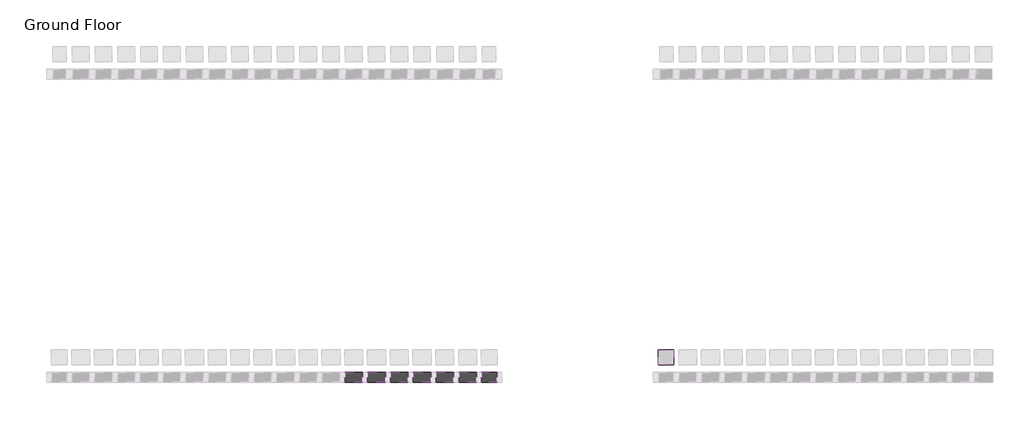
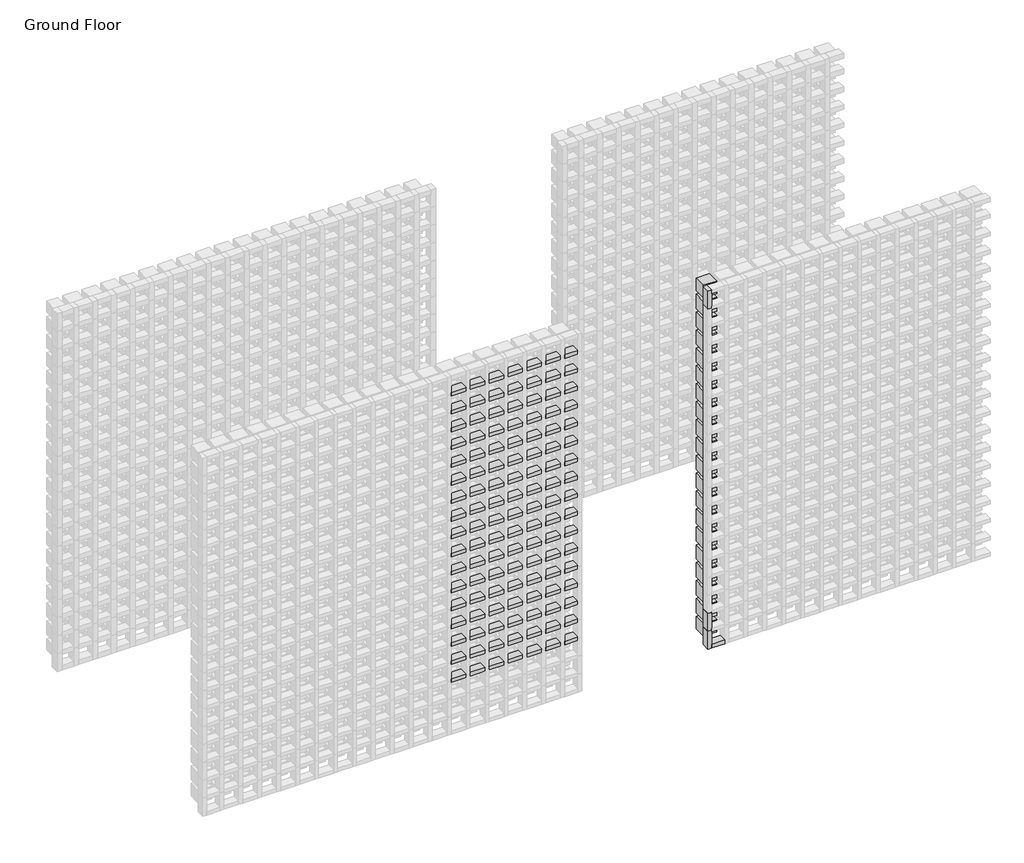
# One storey, part 64 of 350: 123 members, 20 plates.
"""IFC4 building model written with IfcOpenShell, lengths in millimetres."""

from ifc_helpers import new_model, si_unit, origin, place, context, project, spatial, transform, mapped, element, save
from components import rectangular_mullion_e9e2e2fa, rectangular_mullion_f28dea33, rectangular_mullion_27b03f3e, rectangular_mullion_ed01f2b6, empty_system_panel_empty_2f71b3a5, empty_system_panel_empty_7a4fbe29

model = new_model("IFC4")

# Units and contexts
model_context = context("Model", 3, world=origin())
ifc_project = project(units=[si_unit("LENGTHUNIT", "METRE", prefix="MILLI")], contexts=[model_context])

# Site, building, storey
site = spatial("IfcSite", under=ifc_project)
building = spatial("IfcBuilding", under=site)
storey = spatial("IfcBuildingStorey", under=building, Name="Ground Floor", Elevation=0.0)

# Members
placement = place(None, origin())
rectangular_mullion_shape = rectangular_mullion_e9e2e2fa(model_context)
element("IfcMember", 1, ObjectType="Rectangular Mullion : Batten_Timber_Modinex_Austratus_Grid_Fascia_30x65_Blackbutt", at=placement, inside=storey, context=model_context, shape_type="MappedRepresentation", body=[
    mapped(rectangular_mullion_shape, transform((8886.4361639, 38968.2978302, 450.0), x_axis=(0.0, 0.0, 1.0), y_axis=(0.0, -1.0, 0.0), z_axis=(1.0, 0.0, 0.0))),
])
element("IfcMember", 2, ObjectType="Rectangular Mullion : Batten_Timber_Modinex_Austratus_Grid_Fascia_30x65_Blackbutt", at=placement, inside=storey, context=model_context, shape_type="MappedRepresentation", body=[
    mapped(rectangular_mullion_shape, transform((8886.4361639, 38968.2978302, 600.0), x_axis=(0.0, 0.0, 1.0), y_axis=(0.0, -1.0, 0.0), z_axis=(1.0, 0.0, 0.0))),
])
element("IfcMember", 3, ObjectType="Rectangular Mullion : Batten_Timber_Modinex_Austratus_Grid_Fascia_30x65_Blackbutt", at=placement, inside=storey, context=model_context, shape_type="MappedRepresentation", body=[
    mapped(rectangular_mullion_shape, transform((8886.4361639, 38968.2978302, 750.0), x_axis=(0.0, 0.0, 1.0), y_axis=(0.0, -1.0, 0.0), z_axis=(1.0, 0.0, 0.0))),
])
element("IfcMember", 4, ObjectType="Rectangular Mullion : Batten_Timber_Modinex_Austratus_Grid_Fascia_30x65_Blackbutt", at=placement, inside=storey, context=model_context, shape_type="MappedRepresentation", body=[
    mapped(rectangular_mullion_shape, transform((8886.4361639, 38968.2978302, 900.0), x_axis=(0.0, 0.0, 1.0), y_axis=(0.0, -1.0, 0.0), z_axis=(1.0, 0.0, 0.0))),
])
element("IfcMember", 5, ObjectType="Rectangular Mullion : Batten_Timber_Modinex_Austratus_Grid_Fascia_30x65_Blackbutt", at=placement, inside=storey, context=model_context, shape_type="MappedRepresentation", body=[
    mapped(rectangular_mullion_shape, transform((8886.4361639, 38968.2978302, 1050.0), x_axis=(0.0, 0.0, 1.0), y_axis=(0.0, -1.0, 0.0), z_axis=(1.0, 0.0, 0.0))),
])
element("IfcMember", 6, ObjectType="Rectangular Mullion : Batten_Timber_Modinex_Austratus_Grid_Fascia_30x65_Blackbutt", at=placement, inside=storey, context=model_context, shape_type="MappedRepresentation", body=[
    mapped(rectangular_mullion_shape, transform((8886.4361639, 38968.2978302, 1200.0), x_axis=(0.0, 0.0, 1.0), y_axis=(0.0, -1.0, 0.0), z_axis=(1.0, 0.0, 0.0))),
])
element("IfcMember", 7, ObjectType="Rectangular Mullion : Batten_Timber_Modinex_Austratus_Grid_Fascia_30x65_Blackbutt", at=placement, inside=storey, context=model_context, shape_type="MappedRepresentation", body=[
    mapped(rectangular_mullion_shape, transform((8886.4361639, 38968.2978302, 1350.0), x_axis=(0.0, 0.0, 1.0), y_axis=(0.0, -1.0, 0.0), z_axis=(1.0, 0.0, 0.0))),
])
element("IfcMember", 8, ObjectType="Rectangular Mullion : Batten_Timber_Modinex_Austratus_Grid_Fascia_30x65_Blackbutt", at=placement, inside=storey, context=model_context, shape_type="MappedRepresentation", body=[
    mapped(rectangular_mullion_shape, transform((8886.4361639, 38968.2978302, 1500.0), x_axis=(0.0, 0.0, 1.0), y_axis=(0.0, -1.0, 0.0), z_axis=(1.0, 0.0, 0.0))),
])
element("IfcMember", 9, ObjectType="Rectangular Mullion : Batten_Timber_Modinex_Austratus_Grid_Fascia_30x65_Blackbutt", at=placement, inside=storey, context=model_context, shape_type="MappedRepresentation", body=[
    mapped(rectangular_mullion_shape, transform((8886.4361639, 38968.2978302, 1650.0), x_axis=(0.0, 0.0, 1.0), y_axis=(0.0, -1.0, 0.0), z_axis=(1.0, 0.0, 0.0))),
])
element("IfcMember", 10, ObjectType="Rectangular Mullion : Batten_Timber_Modinex_Austratus_Grid_Fascia_30x65_Blackbutt", at=placement, inside=storey, context=model_context, shape_type="MappedRepresentation", body=[
    mapped(rectangular_mullion_shape, transform((8886.4361639, 38968.2978302, 1800.0), x_axis=(0.0, 0.0, 1.0), y_axis=(0.0, -1.0, 0.0), z_axis=(1.0, 0.0, 0.0))),
])
element("IfcMember", 11, ObjectType="Rectangular Mullion : Batten_Timber_Modinex_Austratus_Grid_Fascia_30x65_Blackbutt", at=placement, inside=storey, context=model_context, shape_type="MappedRepresentation", body=[
    mapped(rectangular_mullion_shape, transform((8886.4361639, 38968.2978302, 1950.0), x_axis=(0.0, 0.0, 1.0), y_axis=(0.0, -1.0, 0.0), z_axis=(1.0, 0.0, 0.0))),
])
element("IfcMember", 12, ObjectType="Rectangular Mullion : Batten_Timber_Modinex_Austratus_Grid_Fascia_30x65_Blackbutt", at=placement, inside=storey, context=model_context, shape_type="MappedRepresentation", body=[
    mapped(rectangular_mullion_shape, transform((8886.4361639, 38968.2978302, 2100.0), x_axis=(0.0, 0.0, 1.0), y_axis=(0.0, -1.0, 0.0), z_axis=(1.0, 0.0, 0.0))),
])
element("IfcMember", 13, ObjectType="Rectangular Mullion : Batten_Timber_Modinex_Austratus_Grid_Fascia_30x65_Blackbutt", at=placement, inside=storey, context=model_context, shape_type="MappedRepresentation", body=[
    mapped(rectangular_mullion_shape, transform((8886.4361639, 38968.2978302, 2250.0), x_axis=(0.0, 0.0, 1.0), y_axis=(0.0, -1.0, 0.0), z_axis=(1.0, 0.0, 0.0))),
])
element("IfcMember", 14, ObjectType="Rectangular Mullion : Batten_Timber_Modinex_Austratus_Grid_Fascia_30x65_Blackbutt", at=placement, inside=storey, context=model_context, shape_type="MappedRepresentation", body=[
    mapped(rectangular_mullion_shape, transform((8886.4361639, 38968.2978302, 2400.0), x_axis=(0.0, 0.0, 1.0), y_axis=(0.0, -1.0, 0.0), z_axis=(1.0, 0.0, 0.0))),
])
element("IfcMember", 15, ObjectType="Rectangular Mullion : Batten_Timber_Modinex_Austratus_Grid_Fascia_30x65_Blackbutt", at=placement, inside=storey, context=model_context, shape_type="MappedRepresentation", body=[
    mapped(rectangular_mullion_shape, transform((8886.4361639, 38968.2978302, 2550.0), x_axis=(0.0, 0.0, 1.0), y_axis=(0.0, -1.0, 0.0), z_axis=(1.0, 0.0, 0.0))),
])
element("IfcMember", 16, ObjectType="Rectangular Mullion : Batten_Timber_Modinex_Austratus_Grid_Fascia_30x65_Blackbutt", at=placement, inside=storey, context=model_context, shape_type="MappedRepresentation", body=[
    mapped(rectangular_mullion_shape, transform((8886.4361639, 38968.2978302, 2700.0), x_axis=(0.0, 0.0, 1.0), y_axis=(0.0, -1.0, 0.0), z_axis=(1.0, 0.0, 0.0))),
])
element("IfcMember", 17, ObjectType="Rectangular Mullion : Batten_Timber_Modinex_Austratus_Grid_Fascia_30x65_Blackbutt", at=placement, inside=storey, context=model_context, shape_type="MappedRepresentation", body=[
    mapped(rectangular_mullion_shape, transform((8886.4361639, 38968.2978302, 2850.0), x_axis=(0.0, 0.0, 1.0), y_axis=(0.0, -1.0, 0.0), z_axis=(1.0, 0.0, 0.0))),
])
rectangular_mullion_2_shape = rectangular_mullion_f28dea33(model_context)
element("IfcMember", 18, ObjectType="Rectangular Mullion : Batten_Timber_Modinex_Austratus_Grid_Fascia_30x65_Blackbutt", at=placement, inside=storey, context=model_context, shape_type="MappedRepresentation", body=[
    mapped(rectangular_mullion_2_shape, transform((8001.4361642, 38968.2978302, 450.0), x_axis=(0.0, 0.0, 1.0), y_axis=(0.0, -1.0, 0.0), z_axis=(1.0, 0.0, 0.0))),
])
element("IfcMember", 19, ObjectType="Rectangular Mullion : Batten_Timber_Modinex_Austratus_Grid_Fascia_30x65_Blackbutt", at=placement, inside=storey, context=model_context, shape_type="MappedRepresentation", body=[
    mapped(rectangular_mullion_2_shape, transform((8151.4361642, 38968.2978302, 450.0), x_axis=(0.0, 0.0, 1.0), y_axis=(0.0, -1.0, 0.0), z_axis=(1.0, 0.0, 0.0))),
])
element("IfcMember", 20, ObjectType="Rectangular Mullion : Batten_Timber_Modinex_Austratus_Grid_Fascia_30x65_Blackbutt", at=placement, inside=storey, context=model_context, shape_type="MappedRepresentation", body=[
    mapped(rectangular_mullion_2_shape, transform((8301.4361642, 38968.2978302, 450.0), x_axis=(0.0, 0.0, 1.0), y_axis=(0.0, -1.0, 0.0), z_axis=(1.0, 0.0, 0.0))),
])
element("IfcMember", 21, ObjectType="Rectangular Mullion : Batten_Timber_Modinex_Austratus_Grid_Fascia_30x65_Blackbutt", at=placement, inside=storey, context=model_context, shape_type="MappedRepresentation", body=[
    mapped(rectangular_mullion_2_shape, transform((8451.4361642, 38968.2978302, 450.0), x_axis=(0.0, 0.0, 1.0), y_axis=(0.0, -1.0, 0.0), z_axis=(1.0, 0.0, 0.0))),
])
element("IfcMember", 22, ObjectType="Rectangular Mullion : Batten_Timber_Modinex_Austratus_Grid_Fascia_30x65_Blackbutt", at=placement, inside=storey, context=model_context, shape_type="MappedRepresentation", body=[
    mapped(rectangular_mullion_2_shape, transform((8601.4361642, 38968.2978302, 450.0), x_axis=(0.0, 0.0, 1.0), y_axis=(0.0, -1.0, 0.0), z_axis=(1.0, 0.0, 0.0))),
])
element("IfcMember", 23, ObjectType="Rectangular Mullion : Batten_Timber_Modinex_Austratus_Grid_Fascia_30x65_Blackbutt", at=placement, inside=storey, context=model_context, shape_type="MappedRepresentation", body=[
    mapped(rectangular_mullion_2_shape, transform((8751.4361642, 38968.2978302, 450.0), x_axis=(0.0, 0.0, 1.0), y_axis=(0.0, -1.0, 0.0), z_axis=(1.0, 0.0, 0.0))),
])
element("IfcMember", 24, ObjectType="Rectangular Mullion : Batten_Timber_Modinex_Austratus_Grid_Fascia_30x65_Blackbutt", at=placement, inside=storey, context=model_context, shape_type="MappedRepresentation", body=[
    mapped(rectangular_mullion_2_shape, transform((8001.4361642, 38968.2978302, 600.0), x_axis=(0.0, 0.0, 1.0), y_axis=(0.0, -1.0, 0.0), z_axis=(1.0, 0.0, 0.0))),
])
element("IfcMember", 25, ObjectType="Rectangular Mullion : Batten_Timber_Modinex_Austratus_Grid_Fascia_30x65_Blackbutt", at=placement, inside=storey, context=model_context, shape_type="MappedRepresentation", body=[
    mapped(rectangular_mullion_2_shape, transform((8151.4361642, 38968.2978302, 600.0), x_axis=(0.0, 0.0, 1.0), y_axis=(0.0, -1.0, 0.0), z_axis=(1.0, 0.0, 0.0))),
])
element("IfcMember", 26, ObjectType="Rectangular Mullion : Batten_Timber_Modinex_Austratus_Grid_Fascia_30x65_Blackbutt", at=placement, inside=storey, context=model_context, shape_type="MappedRepresentation", body=[
    mapped(rectangular_mullion_2_shape, transform((8301.4361642, 38968.2978302, 600.0), x_axis=(0.0, 0.0, 1.0), y_axis=(0.0, -1.0, 0.0), z_axis=(1.0, 0.0, 0.0))),
])
element("IfcMember", 27, ObjectType="Rectangular Mullion : Batten_Timber_Modinex_Austratus_Grid_Fascia_30x65_Blackbutt", at=placement, inside=storey, context=model_context, shape_type="MappedRepresentation", body=[
    mapped(rectangular_mullion_2_shape, transform((8451.4361642, 38968.2978302, 600.0), x_axis=(0.0, 0.0, 1.0), y_axis=(0.0, -1.0, 0.0), z_axis=(1.0, 0.0, 0.0))),
])
element("IfcMember", 28, ObjectType="Rectangular Mullion : Batten_Timber_Modinex_Austratus_Grid_Fascia_30x65_Blackbutt", at=placement, inside=storey, context=model_context, shape_type="MappedRepresentation", body=[
    mapped(rectangular_mullion_2_shape, transform((8601.4361642, 38968.2978302, 600.0), x_axis=(0.0, 0.0, 1.0), y_axis=(0.0, -1.0, 0.0), z_axis=(1.0, 0.0, 0.0))),
])
element("IfcMember", 29, ObjectType="Rectangular Mullion : Batten_Timber_Modinex_Austratus_Grid_Fascia_30x65_Blackbutt", at=placement, inside=storey, context=model_context, shape_type="MappedRepresentation", body=[
    mapped(rectangular_mullion_2_shape, transform((8751.4361642, 38968.2978302, 600.0), x_axis=(0.0, 0.0, 1.0), y_axis=(0.0, -1.0, 0.0), z_axis=(1.0, 0.0, 0.0))),
])
element("IfcMember", 30, ObjectType="Rectangular Mullion : Batten_Timber_Modinex_Austratus_Grid_Fascia_30x65_Blackbutt", at=placement, inside=storey, context=model_context, shape_type="MappedRepresentation", body=[
    mapped(rectangular_mullion_2_shape, transform((8001.4361642, 38968.2978302, 750.0), x_axis=(0.0, 0.0, 1.0), y_axis=(0.0, -1.0, 0.0), z_axis=(1.0, 0.0, 0.0))),
])
element("IfcMember", 31, ObjectType="Rectangular Mullion : Batten_Timber_Modinex_Austratus_Grid_Fascia_30x65_Blackbutt", at=placement, inside=storey, context=model_context, shape_type="MappedRepresentation", body=[
    mapped(rectangular_mullion_2_shape, transform((8151.4361642, 38968.2978302, 750.0), x_axis=(0.0, 0.0, 1.0), y_axis=(0.0, -1.0, 0.0), z_axis=(1.0, 0.0, 0.0))),
])
element("IfcMember", 32, ObjectType="Rectangular Mullion : Batten_Timber_Modinex_Austratus_Grid_Fascia_30x65_Blackbutt", at=placement, inside=storey, context=model_context, shape_type="MappedRepresentation", body=[
    mapped(rectangular_mullion_2_shape, transform((8301.4361642, 38968.2978302, 750.0), x_axis=(0.0, 0.0, 1.0), y_axis=(0.0, -1.0, 0.0), z_axis=(1.0, 0.0, 0.0))),
])
element("IfcMember", 33, ObjectType="Rectangular Mullion : Batten_Timber_Modinex_Austratus_Grid_Fascia_30x65_Blackbutt", at=placement, inside=storey, context=model_context, shape_type="MappedRepresentation", body=[
    mapped(rectangular_mullion_2_shape, transform((8451.4361642, 38968.2978302, 750.0), x_axis=(0.0, 0.0, 1.0), y_axis=(0.0, -1.0, 0.0), z_axis=(1.0, 0.0, 0.0))),
])
element("IfcMember", 34, ObjectType="Rectangular Mullion : Batten_Timber_Modinex_Austratus_Grid_Fascia_30x65_Blackbutt", at=placement, inside=storey, context=model_context, shape_type="MappedRepresentation", body=[
    mapped(rectangular_mullion_2_shape, transform((8601.4361642, 38968.2978302, 750.0), x_axis=(0.0, 0.0, 1.0), y_axis=(0.0, -1.0, 0.0), z_axis=(1.0, 0.0, 0.0))),
])
element("IfcMember", 35, ObjectType="Rectangular Mullion : Batten_Timber_Modinex_Austratus_Grid_Fascia_30x65_Blackbutt", at=placement, inside=storey, context=model_context, shape_type="MappedRepresentation", body=[
    mapped(rectangular_mullion_2_shape, transform((8751.4361642, 38968.2978302, 750.0), x_axis=(0.0, 0.0, 1.0), y_axis=(0.0, -1.0, 0.0), z_axis=(1.0, 0.0, 0.0))),
])
element("IfcMember", 36, ObjectType="Rectangular Mullion : Batten_Timber_Modinex_Austratus_Grid_Fascia_30x65_Blackbutt", at=placement, inside=storey, context=model_context, shape_type="MappedRepresentation", body=[
    mapped(rectangular_mullion_2_shape, transform((8001.4361642, 38968.2978302, 900.0), x_axis=(0.0, 0.0, 1.0), y_axis=(0.0, -1.0, 0.0), z_axis=(1.0, 0.0, 0.0))),
])
element("IfcMember", 37, ObjectType="Rectangular Mullion : Batten_Timber_Modinex_Austratus_Grid_Fascia_30x65_Blackbutt", at=placement, inside=storey, context=model_context, shape_type="MappedRepresentation", body=[
    mapped(rectangular_mullion_2_shape, transform((8151.4361642, 38968.2978302, 900.0), x_axis=(0.0, 0.0, 1.0), y_axis=(0.0, -1.0, 0.0), z_axis=(1.0, 0.0, 0.0))),
])
element("IfcMember", 38, ObjectType="Rectangular Mullion : Batten_Timber_Modinex_Austratus_Grid_Fascia_30x65_Blackbutt", at=placement, inside=storey, context=model_context, shape_type="MappedRepresentation", body=[
    mapped(rectangular_mullion_2_shape, transform((8301.4361642, 38968.2978302, 900.0), x_axis=(0.0, 0.0, 1.0), y_axis=(0.0, -1.0, 0.0), z_axis=(1.0, 0.0, 0.0))),
])
element("IfcMember", 39, ObjectType="Rectangular Mullion : Batten_Timber_Modinex_Austratus_Grid_Fascia_30x65_Blackbutt", at=placement, inside=storey, context=model_context, shape_type="MappedRepresentation", body=[
    mapped(rectangular_mullion_2_shape, transform((8451.4361642, 38968.2978302, 900.0), x_axis=(0.0, 0.0, 1.0), y_axis=(0.0, -1.0, 0.0), z_axis=(1.0, 0.0, 0.0))),
])
element("IfcMember", 40, ObjectType="Rectangular Mullion : Batten_Timber_Modinex_Austratus_Grid_Fascia_30x65_Blackbutt", at=placement, inside=storey, context=model_context, shape_type="MappedRepresentation", body=[
    mapped(rectangular_mullion_2_shape, transform((8601.4361642, 38968.2978302, 900.0), x_axis=(0.0, 0.0, 1.0), y_axis=(0.0, -1.0, 0.0), z_axis=(1.0, 0.0, 0.0))),
])
element("IfcMember", 41, ObjectType="Rectangular Mullion : Batten_Timber_Modinex_Austratus_Grid_Fascia_30x65_Blackbutt", at=placement, inside=storey, context=model_context, shape_type="MappedRepresentation", body=[
    mapped(rectangular_mullion_2_shape, transform((8751.4361642, 38968.2978302, 900.0), x_axis=(0.0, 0.0, 1.0), y_axis=(0.0, -1.0, 0.0), z_axis=(1.0, 0.0, 0.0))),
])
element("IfcMember", 42, ObjectType="Rectangular Mullion : Batten_Timber_Modinex_Austratus_Grid_Fascia_30x65_Blackbutt", at=placement, inside=storey, context=model_context, shape_type="MappedRepresentation", body=[
    mapped(rectangular_mullion_2_shape, transform((8001.4361642, 38968.2978302, 1050.0), x_axis=(0.0, 0.0, 1.0), y_axis=(0.0, -1.0, 0.0), z_axis=(1.0, 0.0, 0.0))),
])
element("IfcMember", 43, ObjectType="Rectangular Mullion : Batten_Timber_Modinex_Austratus_Grid_Fascia_30x65_Blackbutt", at=placement, inside=storey, context=model_context, shape_type="MappedRepresentation", body=[
    mapped(rectangular_mullion_2_shape, transform((8151.4361642, 38968.2978302, 1050.0), x_axis=(0.0, 0.0, 1.0), y_axis=(0.0, -1.0, 0.0), z_axis=(1.0, 0.0, 0.0))),
])
element("IfcMember", 44, ObjectType="Rectangular Mullion : Batten_Timber_Modinex_Austratus_Grid_Fascia_30x65_Blackbutt", at=placement, inside=storey, context=model_context, shape_type="MappedRepresentation", body=[
    mapped(rectangular_mullion_2_shape, transform((8301.4361642, 38968.2978302, 1050.0), x_axis=(0.0, 0.0, 1.0), y_axis=(0.0, -1.0, 0.0), z_axis=(1.0, 0.0, 0.0))),
])
element("IfcMember", 45, ObjectType="Rectangular Mullion : Batten_Timber_Modinex_Austratus_Grid_Fascia_30x65_Blackbutt", at=placement, inside=storey, context=model_context, shape_type="MappedRepresentation", body=[
    mapped(rectangular_mullion_2_shape, transform((8451.4361642, 38968.2978302, 1050.0), x_axis=(0.0, 0.0, 1.0), y_axis=(0.0, -1.0, 0.0), z_axis=(1.0, 0.0, 0.0))),
])
element("IfcMember", 46, ObjectType="Rectangular Mullion : Batten_Timber_Modinex_Austratus_Grid_Fascia_30x65_Blackbutt", at=placement, inside=storey, context=model_context, shape_type="MappedRepresentation", body=[
    mapped(rectangular_mullion_2_shape, transform((8601.4361642, 38968.2978302, 1050.0), x_axis=(0.0, 0.0, 1.0), y_axis=(0.0, -1.0, 0.0), z_axis=(1.0, 0.0, 0.0))),
])
element("IfcMember", 47, ObjectType="Rectangular Mullion : Batten_Timber_Modinex_Austratus_Grid_Fascia_30x65_Blackbutt", at=placement, inside=storey, context=model_context, shape_type="MappedRepresentation", body=[
    mapped(rectangular_mullion_2_shape, transform((8751.4361642, 38968.2978302, 1050.0), x_axis=(0.0, 0.0, 1.0), y_axis=(0.0, -1.0, 0.0), z_axis=(1.0, 0.0, 0.0))),
])
element("IfcMember", 48, ObjectType="Rectangular Mullion : Batten_Timber_Modinex_Austratus_Grid_Fascia_30x65_Blackbutt", at=placement, inside=storey, context=model_context, shape_type="MappedRepresentation", body=[
    mapped(rectangular_mullion_2_shape, transform((8001.4361642, 38968.2978302, 1200.0), x_axis=(0.0, 0.0, 1.0), y_axis=(0.0, -1.0, 0.0), z_axis=(1.0, 0.0, 0.0))),
])
element("IfcMember", 49, ObjectType="Rectangular Mullion : Batten_Timber_Modinex_Austratus_Grid_Fascia_30x65_Blackbutt", at=placement, inside=storey, context=model_context, shape_type="MappedRepresentation", body=[
    mapped(rectangular_mullion_2_shape, transform((8151.4361642, 38968.2978302, 1200.0), x_axis=(0.0, 0.0, 1.0), y_axis=(0.0, -1.0, 0.0), z_axis=(1.0, 0.0, 0.0))),
])
element("IfcMember", 50, ObjectType="Rectangular Mullion : Batten_Timber_Modinex_Austratus_Grid_Fascia_30x65_Blackbutt", at=placement, inside=storey, context=model_context, shape_type="MappedRepresentation", body=[
    mapped(rectangular_mullion_2_shape, transform((8301.4361642, 38968.2978302, 1200.0), x_axis=(0.0, 0.0, 1.0), y_axis=(0.0, -1.0, 0.0), z_axis=(1.0, 0.0, 0.0))),
])
element("IfcMember", 51, ObjectType="Rectangular Mullion : Batten_Timber_Modinex_Austratus_Grid_Fascia_30x65_Blackbutt", at=placement, inside=storey, context=model_context, shape_type="MappedRepresentation", body=[
    mapped(rectangular_mullion_2_shape, transform((8451.4361642, 38968.2978302, 1200.0), x_axis=(0.0, 0.0, 1.0), y_axis=(0.0, -1.0, 0.0), z_axis=(1.0, 0.0, 0.0))),
])
element("IfcMember", 52, ObjectType="Rectangular Mullion : Batten_Timber_Modinex_Austratus_Grid_Fascia_30x65_Blackbutt", at=placement, inside=storey, context=model_context, shape_type="MappedRepresentation", body=[
    mapped(rectangular_mullion_2_shape, transform((8601.4361642, 38968.2978302, 1200.0), x_axis=(0.0, 0.0, 1.0), y_axis=(0.0, -1.0, 0.0), z_axis=(1.0, 0.0, 0.0))),
])
element("IfcMember", 53, ObjectType="Rectangular Mullion : Batten_Timber_Modinex_Austratus_Grid_Fascia_30x65_Blackbutt", at=placement, inside=storey, context=model_context, shape_type="MappedRepresentation", body=[
    mapped(rectangular_mullion_2_shape, transform((8751.4361642, 38968.2978302, 1200.0), x_axis=(0.0, 0.0, 1.0), y_axis=(0.0, -1.0, 0.0), z_axis=(1.0, 0.0, 0.0))),
])
element("IfcMember", 54, ObjectType="Rectangular Mullion : Batten_Timber_Modinex_Austratus_Grid_Fascia_30x65_Blackbutt", at=placement, inside=storey, context=model_context, shape_type="MappedRepresentation", body=[
    mapped(rectangular_mullion_2_shape, transform((8001.4361642, 38968.2978302, 1350.0), x_axis=(0.0, 0.0, 1.0), y_axis=(0.0, -1.0, 0.0), z_axis=(1.0, 0.0, 0.0))),
])
element("IfcMember", 55, ObjectType="Rectangular Mullion : Batten_Timber_Modinex_Austratus_Grid_Fascia_30x65_Blackbutt", at=placement, inside=storey, context=model_context, shape_type="MappedRepresentation", body=[
    mapped(rectangular_mullion_2_shape, transform((8151.4361642, 38968.2978302, 1350.0), x_axis=(0.0, 0.0, 1.0), y_axis=(0.0, -1.0, 0.0), z_axis=(1.0, 0.0, 0.0))),
])
element("IfcMember", 56, ObjectType="Rectangular Mullion : Batten_Timber_Modinex_Austratus_Grid_Fascia_30x65_Blackbutt", at=placement, inside=storey, context=model_context, shape_type="MappedRepresentation", body=[
    mapped(rectangular_mullion_2_shape, transform((8301.4361642, 38968.2978302, 1350.0), x_axis=(0.0, 0.0, 1.0), y_axis=(0.0, -1.0, 0.0), z_axis=(1.0, 0.0, 0.0))),
])
element("IfcMember", 57, ObjectType="Rectangular Mullion : Batten_Timber_Modinex_Austratus_Grid_Fascia_30x65_Blackbutt", at=placement, inside=storey, context=model_context, shape_type="MappedRepresentation", body=[
    mapped(rectangular_mullion_2_shape, transform((8451.4361642, 38968.2978302, 1350.0), x_axis=(0.0, 0.0, 1.0), y_axis=(0.0, -1.0, 0.0), z_axis=(1.0, 0.0, 0.0))),
])
element("IfcMember", 58, ObjectType="Rectangular Mullion : Batten_Timber_Modinex_Austratus_Grid_Fascia_30x65_Blackbutt", at=placement, inside=storey, context=model_context, shape_type="MappedRepresentation", body=[
    mapped(rectangular_mullion_2_shape, transform((8601.4361642, 38968.2978302, 1350.0), x_axis=(0.0, 0.0, 1.0), y_axis=(0.0, -1.0, 0.0), z_axis=(1.0, 0.0, 0.0))),
])
element("IfcMember", 59, ObjectType="Rectangular Mullion : Batten_Timber_Modinex_Austratus_Grid_Fascia_30x65_Blackbutt", at=placement, inside=storey, context=model_context, shape_type="MappedRepresentation", body=[
    mapped(rectangular_mullion_2_shape, transform((8751.4361642, 38968.2978302, 1350.0), x_axis=(0.0, 0.0, 1.0), y_axis=(0.0, -1.0, 0.0), z_axis=(1.0, 0.0, 0.0))),
])
element("IfcMember", 60, ObjectType="Rectangular Mullion : Batten_Timber_Modinex_Austratus_Grid_Fascia_30x65_Blackbutt", at=placement, inside=storey, context=model_context, shape_type="MappedRepresentation", body=[
    mapped(rectangular_mullion_2_shape, transform((8001.4361642, 38968.2978302, 1500.0), x_axis=(0.0, 0.0, 1.0), y_axis=(0.0, -1.0, 0.0), z_axis=(1.0, 0.0, 0.0))),
])
element("IfcMember", 61, ObjectType="Rectangular Mullion : Batten_Timber_Modinex_Austratus_Grid_Fascia_30x65_Blackbutt", at=placement, inside=storey, context=model_context, shape_type="MappedRepresentation", body=[
    mapped(rectangular_mullion_2_shape, transform((8151.4361642, 38968.2978302, 1500.0), x_axis=(0.0, 0.0, 1.0), y_axis=(0.0, -1.0, 0.0), z_axis=(1.0, 0.0, 0.0))),
])
element("IfcMember", 62, ObjectType="Rectangular Mullion : Batten_Timber_Modinex_Austratus_Grid_Fascia_30x65_Blackbutt", at=placement, inside=storey, context=model_context, shape_type="MappedRepresentation", body=[
    mapped(rectangular_mullion_2_shape, transform((8301.4361642, 38968.2978302, 1500.0), x_axis=(0.0, 0.0, 1.0), y_axis=(0.0, -1.0, 0.0), z_axis=(1.0, 0.0, 0.0))),
])
element("IfcMember", 63, ObjectType="Rectangular Mullion : Batten_Timber_Modinex_Austratus_Grid_Fascia_30x65_Blackbutt", at=placement, inside=storey, context=model_context, shape_type="MappedRepresentation", body=[
    mapped(rectangular_mullion_2_shape, transform((8451.4361642, 38968.2978302, 1500.0), x_axis=(0.0, 0.0, 1.0), y_axis=(0.0, -1.0, 0.0), z_axis=(1.0, 0.0, 0.0))),
])
element("IfcMember", 64, ObjectType="Rectangular Mullion : Batten_Timber_Modinex_Austratus_Grid_Fascia_30x65_Blackbutt", at=placement, inside=storey, context=model_context, shape_type="MappedRepresentation", body=[
    mapped(rectangular_mullion_2_shape, transform((8601.4361642, 38968.2978302, 1500.0), x_axis=(0.0, 0.0, 1.0), y_axis=(0.0, -1.0, 0.0), z_axis=(1.0, 0.0, 0.0))),
])
element("IfcMember", 65, ObjectType="Rectangular Mullion : Batten_Timber_Modinex_Austratus_Grid_Fascia_30x65_Blackbutt", at=placement, inside=storey, context=model_context, shape_type="MappedRepresentation", body=[
    mapped(rectangular_mullion_2_shape, transform((8751.4361642, 38968.2978302, 1500.0), x_axis=(0.0, 0.0, 1.0), y_axis=(0.0, -1.0, 0.0), z_axis=(1.0, 0.0, 0.0))),
])
element("IfcMember", 66, ObjectType="Rectangular Mullion : Batten_Timber_Modinex_Austratus_Grid_Fascia_30x65_Blackbutt", at=placement, inside=storey, context=model_context, shape_type="MappedRepresentation", body=[
    mapped(rectangular_mullion_2_shape, transform((8001.4361642, 38968.2978302, 1650.0), x_axis=(0.0, 0.0, 1.0), y_axis=(0.0, -1.0, 0.0), z_axis=(1.0, 0.0, 0.0))),
])
element("IfcMember", 67, ObjectType="Rectangular Mullion : Batten_Timber_Modinex_Austratus_Grid_Fascia_30x65_Blackbutt", at=placement, inside=storey, context=model_context, shape_type="MappedRepresentation", body=[
    mapped(rectangular_mullion_2_shape, transform((8151.4361642, 38968.2978302, 1650.0), x_axis=(0.0, 0.0, 1.0), y_axis=(0.0, -1.0, 0.0), z_axis=(1.0, 0.0, 0.0))),
])
element("IfcMember", 68, ObjectType="Rectangular Mullion : Batten_Timber_Modinex_Austratus_Grid_Fascia_30x65_Blackbutt", at=placement, inside=storey, context=model_context, shape_type="MappedRepresentation", body=[
    mapped(rectangular_mullion_2_shape, transform((8301.4361642, 38968.2978302, 1650.0), x_axis=(0.0, 0.0, 1.0), y_axis=(0.0, -1.0, 0.0), z_axis=(1.0, 0.0, 0.0))),
])
element("IfcMember", 69, ObjectType="Rectangular Mullion : Batten_Timber_Modinex_Austratus_Grid_Fascia_30x65_Blackbutt", at=placement, inside=storey, context=model_context, shape_type="MappedRepresentation", body=[
    mapped(rectangular_mullion_2_shape, transform((8451.4361642, 38968.2978302, 1650.0), x_axis=(0.0, 0.0, 1.0), y_axis=(0.0, -1.0, 0.0), z_axis=(1.0, 0.0, 0.0))),
])
element("IfcMember", 70, ObjectType="Rectangular Mullion : Batten_Timber_Modinex_Austratus_Grid_Fascia_30x65_Blackbutt", at=placement, inside=storey, context=model_context, shape_type="MappedRepresentation", body=[
    mapped(rectangular_mullion_2_shape, transform((8601.4361642, 38968.2978302, 1650.0), x_axis=(0.0, 0.0, 1.0), y_axis=(0.0, -1.0, 0.0), z_axis=(1.0, 0.0, 0.0))),
])
element("IfcMember", 71, ObjectType="Rectangular Mullion : Batten_Timber_Modinex_Austratus_Grid_Fascia_30x65_Blackbutt", at=placement, inside=storey, context=model_context, shape_type="MappedRepresentation", body=[
    mapped(rectangular_mullion_2_shape, transform((8751.4361642, 38968.2978302, 1650.0), x_axis=(0.0, 0.0, 1.0), y_axis=(0.0, -1.0, 0.0), z_axis=(1.0, 0.0, 0.0))),
])
element("IfcMember", 72, ObjectType="Rectangular Mullion : Batten_Timber_Modinex_Austratus_Grid_Fascia_30x65_Blackbutt", at=placement, inside=storey, context=model_context, shape_type="MappedRepresentation", body=[
    mapped(rectangular_mullion_2_shape, transform((8001.4361642, 38968.2978302, 1800.0), x_axis=(0.0, 0.0, 1.0), y_axis=(0.0, -1.0, 0.0), z_axis=(1.0, 0.0, 0.0))),
])
element("IfcMember", 73, ObjectType="Rectangular Mullion : Batten_Timber_Modinex_Austratus_Grid_Fascia_30x65_Blackbutt", at=placement, inside=storey, context=model_context, shape_type="MappedRepresentation", body=[
    mapped(rectangular_mullion_2_shape, transform((8151.4361642, 38968.2978302, 1800.0), x_axis=(0.0, 0.0, 1.0), y_axis=(0.0, -1.0, 0.0), z_axis=(1.0, 0.0, 0.0))),
])
element("IfcMember", 74, ObjectType="Rectangular Mullion : Batten_Timber_Modinex_Austratus_Grid_Fascia_30x65_Blackbutt", at=placement, inside=storey, context=model_context, shape_type="MappedRepresentation", body=[
    mapped(rectangular_mullion_2_shape, transform((8301.4361642, 38968.2978302, 1800.0), x_axis=(0.0, 0.0, 1.0), y_axis=(0.0, -1.0, 0.0), z_axis=(1.0, 0.0, 0.0))),
])
element("IfcMember", 75, ObjectType="Rectangular Mullion : Batten_Timber_Modinex_Austratus_Grid_Fascia_30x65_Blackbutt", at=placement, inside=storey, context=model_context, shape_type="MappedRepresentation", body=[
    mapped(rectangular_mullion_2_shape, transform((8451.4361642, 38968.2978302, 1800.0), x_axis=(0.0, 0.0, 1.0), y_axis=(0.0, -1.0, 0.0), z_axis=(1.0, 0.0, 0.0))),
])
element("IfcMember", 76, ObjectType="Rectangular Mullion : Batten_Timber_Modinex_Austratus_Grid_Fascia_30x65_Blackbutt", at=placement, inside=storey, context=model_context, shape_type="MappedRepresentation", body=[
    mapped(rectangular_mullion_2_shape, transform((8601.4361642, 38968.2978302, 1800.0), x_axis=(0.0, 0.0, 1.0), y_axis=(0.0, -1.0, 0.0), z_axis=(1.0, 0.0, 0.0))),
])
element("IfcMember", 77, ObjectType="Rectangular Mullion : Batten_Timber_Modinex_Austratus_Grid_Fascia_30x65_Blackbutt", at=placement, inside=storey, context=model_context, shape_type="MappedRepresentation", body=[
    mapped(rectangular_mullion_2_shape, transform((8751.4361642, 38968.2978302, 1800.0), x_axis=(0.0, 0.0, 1.0), y_axis=(0.0, -1.0, 0.0), z_axis=(1.0, 0.0, 0.0))),
])
element("IfcMember", 78, ObjectType="Rectangular Mullion : Batten_Timber_Modinex_Austratus_Grid_Fascia_30x65_Blackbutt", at=placement, inside=storey, context=model_context, shape_type="MappedRepresentation", body=[
    mapped(rectangular_mullion_2_shape, transform((8001.4361642, 38968.2978302, 1950.0), x_axis=(0.0, 0.0, 1.0), y_axis=(0.0, -1.0, 0.0), z_axis=(1.0, 0.0, 0.0))),
])
element("IfcMember", 79, ObjectType="Rectangular Mullion : Batten_Timber_Modinex_Austratus_Grid_Fascia_30x65_Blackbutt", at=placement, inside=storey, context=model_context, shape_type="MappedRepresentation", body=[
    mapped(rectangular_mullion_2_shape, transform((8151.4361642, 38968.2978302, 1950.0), x_axis=(0.0, 0.0, 1.0), y_axis=(0.0, -1.0, 0.0), z_axis=(1.0, 0.0, 0.0))),
])
element("IfcMember", 80, ObjectType="Rectangular Mullion : Batten_Timber_Modinex_Austratus_Grid_Fascia_30x65_Blackbutt", at=placement, inside=storey, context=model_context, shape_type="MappedRepresentation", body=[
    mapped(rectangular_mullion_2_shape, transform((8301.4361642, 38968.2978302, 1950.0), x_axis=(0.0, 0.0, 1.0), y_axis=(0.0, -1.0, 0.0), z_axis=(1.0, 0.0, 0.0))),
])
element("IfcMember", 81, ObjectType="Rectangular Mullion : Batten_Timber_Modinex_Austratus_Grid_Fascia_30x65_Blackbutt", at=placement, inside=storey, context=model_context, shape_type="MappedRepresentation", body=[
    mapped(rectangular_mullion_2_shape, transform((8451.4361642, 38968.2978302, 1950.0), x_axis=(0.0, 0.0, 1.0), y_axis=(0.0, -1.0, 0.0), z_axis=(1.0, 0.0, 0.0))),
])
element("IfcMember", 82, ObjectType="Rectangular Mullion : Batten_Timber_Modinex_Austratus_Grid_Fascia_30x65_Blackbutt", at=placement, inside=storey, context=model_context, shape_type="MappedRepresentation", body=[
    mapped(rectangular_mullion_2_shape, transform((8601.4361642, 38968.2978302, 1950.0), x_axis=(0.0, 0.0, 1.0), y_axis=(0.0, -1.0, 0.0), z_axis=(1.0, 0.0, 0.0))),
])
element("IfcMember", 83, ObjectType="Rectangular Mullion : Batten_Timber_Modinex_Austratus_Grid_Fascia_30x65_Blackbutt", at=placement, inside=storey, context=model_context, shape_type="MappedRepresentation", body=[
    mapped(rectangular_mullion_2_shape, transform((8751.4361642, 38968.2978302, 1950.0), x_axis=(0.0, 0.0, 1.0), y_axis=(0.0, -1.0, 0.0), z_axis=(1.0, 0.0, 0.0))),
])
element("IfcMember", 84, ObjectType="Rectangular Mullion : Batten_Timber_Modinex_Austratus_Grid_Fascia_30x65_Blackbutt", at=placement, inside=storey, context=model_context, shape_type="MappedRepresentation", body=[
    mapped(rectangular_mullion_2_shape, transform((8001.4361642, 38968.2978302, 2100.0), x_axis=(0.0, 0.0, 1.0), y_axis=(0.0, -1.0, 0.0), z_axis=(1.0, 0.0, 0.0))),
])
element("IfcMember", 85, ObjectType="Rectangular Mullion : Batten_Timber_Modinex_Austratus_Grid_Fascia_30x65_Blackbutt", at=placement, inside=storey, context=model_context, shape_type="MappedRepresentation", body=[
    mapped(rectangular_mullion_2_shape, transform((8151.4361642, 38968.2978302, 2100.0), x_axis=(0.0, 0.0, 1.0), y_axis=(0.0, -1.0, 0.0), z_axis=(1.0, 0.0, 0.0))),
])
element("IfcMember", 86, ObjectType="Rectangular Mullion : Batten_Timber_Modinex_Austratus_Grid_Fascia_30x65_Blackbutt", at=placement, inside=storey, context=model_context, shape_type="MappedRepresentation", body=[
    mapped(rectangular_mullion_2_shape, transform((8301.4361642, 38968.2978302, 2100.0), x_axis=(0.0, 0.0, 1.0), y_axis=(0.0, -1.0, 0.0), z_axis=(1.0, 0.0, 0.0))),
])
element("IfcMember", 87, ObjectType="Rectangular Mullion : Batten_Timber_Modinex_Austratus_Grid_Fascia_30x65_Blackbutt", at=placement, inside=storey, context=model_context, shape_type="MappedRepresentation", body=[
    mapped(rectangular_mullion_2_shape, transform((8451.4361642, 38968.2978302, 2100.0), x_axis=(0.0, 0.0, 1.0), y_axis=(0.0, -1.0, 0.0), z_axis=(1.0, 0.0, 0.0))),
])
element("IfcMember", 88, ObjectType="Rectangular Mullion : Batten_Timber_Modinex_Austratus_Grid_Fascia_30x65_Blackbutt", at=placement, inside=storey, context=model_context, shape_type="MappedRepresentation", body=[
    mapped(rectangular_mullion_2_shape, transform((8601.4361642, 38968.2978302, 2100.0), x_axis=(0.0, 0.0, 1.0), y_axis=(0.0, -1.0, 0.0), z_axis=(1.0, 0.0, 0.0))),
])
element("IfcMember", 89, ObjectType="Rectangular Mullion : Batten_Timber_Modinex_Austratus_Grid_Fascia_30x65_Blackbutt", at=placement, inside=storey, context=model_context, shape_type="MappedRepresentation", body=[
    mapped(rectangular_mullion_2_shape, transform((8751.4361642, 38968.2978302, 2100.0), x_axis=(0.0, 0.0, 1.0), y_axis=(0.0, -1.0, 0.0), z_axis=(1.0, 0.0, 0.0))),
])
element("IfcMember", 90, ObjectType="Rectangular Mullion : Batten_Timber_Modinex_Austratus_Grid_Fascia_30x65_Blackbutt", at=placement, inside=storey, context=model_context, shape_type="MappedRepresentation", body=[
    mapped(rectangular_mullion_2_shape, transform((8001.4361642, 38968.2978302, 2250.0), x_axis=(0.0, 0.0, 1.0), y_axis=(0.0, -1.0, 0.0), z_axis=(1.0, 0.0, 0.0))),
])
element("IfcMember", 91, ObjectType="Rectangular Mullion : Batten_Timber_Modinex_Austratus_Grid_Fascia_30x65_Blackbutt", at=placement, inside=storey, context=model_context, shape_type="MappedRepresentation", body=[
    mapped(rectangular_mullion_2_shape, transform((8151.4361642, 38968.2978302, 2250.0), x_axis=(0.0, 0.0, 1.0), y_axis=(0.0, -1.0, 0.0), z_axis=(1.0, 0.0, 0.0))),
])
element("IfcMember", 92, ObjectType="Rectangular Mullion : Batten_Timber_Modinex_Austratus_Grid_Fascia_30x65_Blackbutt", at=placement, inside=storey, context=model_context, shape_type="MappedRepresentation", body=[
    mapped(rectangular_mullion_2_shape, transform((8301.4361642, 38968.2978302, 2250.0), x_axis=(0.0, 0.0, 1.0), y_axis=(0.0, -1.0, 0.0), z_axis=(1.0, 0.0, 0.0))),
])
element("IfcMember", 93, ObjectType="Rectangular Mullion : Batten_Timber_Modinex_Austratus_Grid_Fascia_30x65_Blackbutt", at=placement, inside=storey, context=model_context, shape_type="MappedRepresentation", body=[
    mapped(rectangular_mullion_2_shape, transform((8451.4361642, 38968.2978302, 2250.0), x_axis=(0.0, 0.0, 1.0), y_axis=(0.0, -1.0, 0.0), z_axis=(1.0, 0.0, 0.0))),
])
element("IfcMember", 94, ObjectType="Rectangular Mullion : Batten_Timber_Modinex_Austratus_Grid_Fascia_30x65_Blackbutt", at=placement, inside=storey, context=model_context, shape_type="MappedRepresentation", body=[
    mapped(rectangular_mullion_2_shape, transform((8601.4361642, 38968.2978302, 2250.0), x_axis=(0.0, 0.0, 1.0), y_axis=(0.0, -1.0, 0.0), z_axis=(1.0, 0.0, 0.0))),
])
element("IfcMember", 95, ObjectType="Rectangular Mullion : Batten_Timber_Modinex_Austratus_Grid_Fascia_30x65_Blackbutt", at=placement, inside=storey, context=model_context, shape_type="MappedRepresentation", body=[
    mapped(rectangular_mullion_2_shape, transform((8751.4361642, 38968.2978302, 2250.0), x_axis=(0.0, 0.0, 1.0), y_axis=(0.0, -1.0, 0.0), z_axis=(1.0, 0.0, 0.0))),
])
element("IfcMember", 96, ObjectType="Rectangular Mullion : Batten_Timber_Modinex_Austratus_Grid_Fascia_30x65_Blackbutt", at=placement, inside=storey, context=model_context, shape_type="MappedRepresentation", body=[
    mapped(rectangular_mullion_2_shape, transform((8001.4361642, 38968.2978302, 2400.0), x_axis=(0.0, 0.0, 1.0), y_axis=(0.0, -1.0, 0.0), z_axis=(1.0, 0.0, 0.0))),
])
element("IfcMember", 97, ObjectType="Rectangular Mullion : Batten_Timber_Modinex_Austratus_Grid_Fascia_30x65_Blackbutt", at=placement, inside=storey, context=model_context, shape_type="MappedRepresentation", body=[
    mapped(rectangular_mullion_2_shape, transform((8151.4361642, 38968.2978302, 2400.0), x_axis=(0.0, 0.0, 1.0), y_axis=(0.0, -1.0, 0.0), z_axis=(1.0, 0.0, 0.0))),
])
element("IfcMember", 98, ObjectType="Rectangular Mullion : Batten_Timber_Modinex_Austratus_Grid_Fascia_30x65_Blackbutt", at=placement, inside=storey, context=model_context, shape_type="MappedRepresentation", body=[
    mapped(rectangular_mullion_2_shape, transform((8301.4361642, 38968.2978302, 2400.0), x_axis=(0.0, 0.0, 1.0), y_axis=(0.0, -1.0, 0.0), z_axis=(1.0, 0.0, 0.0))),
])
element("IfcMember", 99, ObjectType="Rectangular Mullion : Batten_Timber_Modinex_Austratus_Grid_Fascia_30x65_Blackbutt", at=placement, inside=storey, context=model_context, shape_type="MappedRepresentation", body=[
    mapped(rectangular_mullion_2_shape, transform((8451.4361642, 38968.2978302, 2400.0), x_axis=(0.0, 0.0, 1.0), y_axis=(0.0, -1.0, 0.0), z_axis=(1.0, 0.0, 0.0))),
])
element("IfcMember", 100, ObjectType="Rectangular Mullion : Batten_Timber_Modinex_Austratus_Grid_Fascia_30x65_Blackbutt", at=placement, inside=storey, context=model_context, shape_type="MappedRepresentation", body=[
    mapped(rectangular_mullion_2_shape, transform((8601.4361642, 38968.2978302, 2400.0), x_axis=(0.0, 0.0, 1.0), y_axis=(0.0, -1.0, 0.0), z_axis=(1.0, 0.0, 0.0))),
])
element("IfcMember", 101, ObjectType="Rectangular Mullion : Batten_Timber_Modinex_Austratus_Grid_Fascia_30x65_Blackbutt", at=placement, inside=storey, context=model_context, shape_type="MappedRepresentation", body=[
    mapped(rectangular_mullion_2_shape, transform((8751.4361642, 38968.2978302, 2400.0), x_axis=(0.0, 0.0, 1.0), y_axis=(0.0, -1.0, 0.0), z_axis=(1.0, 0.0, 0.0))),
])
element("IfcMember", 102, ObjectType="Rectangular Mullion : Batten_Timber_Modinex_Austratus_Grid_Fascia_30x65_Blackbutt", at=placement, inside=storey, context=model_context, shape_type="MappedRepresentation", body=[
    mapped(rectangular_mullion_2_shape, transform((8001.4361642, 38968.2978302, 2550.0), x_axis=(0.0, 0.0, 1.0), y_axis=(0.0, -1.0, 0.0), z_axis=(1.0, 0.0, 0.0))),
])
element("IfcMember", 103, ObjectType="Rectangular Mullion : Batten_Timber_Modinex_Austratus_Grid_Fascia_30x65_Blackbutt", at=placement, inside=storey, context=model_context, shape_type="MappedRepresentation", body=[
    mapped(rectangular_mullion_2_shape, transform((8151.4361642, 38968.2978302, 2550.0), x_axis=(0.0, 0.0, 1.0), y_axis=(0.0, -1.0, 0.0), z_axis=(1.0, 0.0, 0.0))),
])
element("IfcMember", 104, ObjectType="Rectangular Mullion : Batten_Timber_Modinex_Austratus_Grid_Fascia_30x65_Blackbutt", at=placement, inside=storey, context=model_context, shape_type="MappedRepresentation", body=[
    mapped(rectangular_mullion_2_shape, transform((8301.4361642, 38968.2978302, 2550.0), x_axis=(0.0, 0.0, 1.0), y_axis=(0.0, -1.0, 0.0), z_axis=(1.0, 0.0, 0.0))),
])
element("IfcMember", 105, ObjectType="Rectangular Mullion : Batten_Timber_Modinex_Austratus_Grid_Fascia_30x65_Blackbutt", at=placement, inside=storey, context=model_context, shape_type="MappedRepresentation", body=[
    mapped(rectangular_mullion_2_shape, transform((8451.4361642, 38968.2978302, 2550.0), x_axis=(0.0, 0.0, 1.0), y_axis=(0.0, -1.0, 0.0), z_axis=(1.0, 0.0, 0.0))),
])
element("IfcMember", 106, ObjectType="Rectangular Mullion : Batten_Timber_Modinex_Austratus_Grid_Fascia_30x65_Blackbutt", at=placement, inside=storey, context=model_context, shape_type="MappedRepresentation", body=[
    mapped(rectangular_mullion_2_shape, transform((8601.4361642, 38968.2978302, 2550.0), x_axis=(0.0, 0.0, 1.0), y_axis=(0.0, -1.0, 0.0), z_axis=(1.0, 0.0, 0.0))),
])
element("IfcMember", 107, ObjectType="Rectangular Mullion : Batten_Timber_Modinex_Austratus_Grid_Fascia_30x65_Blackbutt", at=placement, inside=storey, context=model_context, shape_type="MappedRepresentation", body=[
    mapped(rectangular_mullion_2_shape, transform((8751.4361642, 38968.2978302, 2550.0), x_axis=(0.0, 0.0, 1.0), y_axis=(0.0, -1.0, 0.0), z_axis=(1.0, 0.0, 0.0))),
])
element("IfcMember", 108, ObjectType="Rectangular Mullion : Batten_Timber_Modinex_Austratus_Grid_Fascia_30x65_Blackbutt", at=placement, inside=storey, context=model_context, shape_type="MappedRepresentation", body=[
    mapped(rectangular_mullion_2_shape, transform((8001.4361642, 38968.2978302, 2700.0), x_axis=(0.0, 0.0, 1.0), y_axis=(0.0, -1.0, 0.0), z_axis=(1.0, 0.0, 0.0))),
])
element("IfcMember", 109, ObjectType="Rectangular Mullion : Batten_Timber_Modinex_Austratus_Grid_Fascia_30x65_Blackbutt", at=placement, inside=storey, context=model_context, shape_type="MappedRepresentation", body=[
    mapped(rectangular_mullion_2_shape, transform((8151.4361642, 38968.2978302, 2700.0), x_axis=(0.0, 0.0, 1.0), y_axis=(0.0, -1.0, 0.0), z_axis=(1.0, 0.0, 0.0))),
])
element("IfcMember", 110, ObjectType="Rectangular Mullion : Batten_Timber_Modinex_Austratus_Grid_Fascia_30x65_Blackbutt", at=placement, inside=storey, context=model_context, shape_type="MappedRepresentation", body=[
    mapped(rectangular_mullion_2_shape, transform((8301.4361642, 38968.2978302, 2700.0), x_axis=(0.0, 0.0, 1.0), y_axis=(0.0, -1.0, 0.0), z_axis=(1.0, 0.0, 0.0))),
])
element("IfcMember", 111, ObjectType="Rectangular Mullion : Batten_Timber_Modinex_Austratus_Grid_Fascia_30x65_Blackbutt", at=placement, inside=storey, context=model_context, shape_type="MappedRepresentation", body=[
    mapped(rectangular_mullion_2_shape, transform((8451.4361642, 38968.2978302, 2700.0), x_axis=(0.0, 0.0, 1.0), y_axis=(0.0, -1.0, 0.0), z_axis=(1.0, 0.0, 0.0))),
])
element("IfcMember", 112, ObjectType="Rectangular Mullion : Batten_Timber_Modinex_Austratus_Grid_Fascia_30x65_Blackbutt", at=placement, inside=storey, context=model_context, shape_type="MappedRepresentation", body=[
    mapped(rectangular_mullion_2_shape, transform((8601.4361642, 38968.2978302, 2700.0), x_axis=(0.0, 0.0, 1.0), y_axis=(0.0, -1.0, 0.0), z_axis=(1.0, 0.0, 0.0))),
])
element("IfcMember", 113, ObjectType="Rectangular Mullion : Batten_Timber_Modinex_Austratus_Grid_Fascia_30x65_Blackbutt", at=placement, inside=storey, context=model_context, shape_type="MappedRepresentation", body=[
    mapped(rectangular_mullion_2_shape, transform((8751.4361642, 38968.2978302, 2700.0), x_axis=(0.0, 0.0, 1.0), y_axis=(0.0, -1.0, 0.0), z_axis=(1.0, 0.0, 0.0))),
])
element("IfcMember", 114, ObjectType="Rectangular Mullion : Batten_Timber_Modinex_Austratus_Grid_Fascia_30x65_Blackbutt", at=placement, inside=storey, context=model_context, shape_type="MappedRepresentation", body=[
    mapped(rectangular_mullion_2_shape, transform((8001.4361642, 38968.2978302, 2850.0), x_axis=(0.0, 0.0, 1.0), y_axis=(0.0, -1.0, 0.0), z_axis=(1.0, 0.0, 0.0))),
])
element("IfcMember", 115, ObjectType="Rectangular Mullion : Batten_Timber_Modinex_Austratus_Grid_Fascia_30x65_Blackbutt", at=placement, inside=storey, context=model_context, shape_type="MappedRepresentation", body=[
    mapped(rectangular_mullion_2_shape, transform((8151.4361642, 38968.2978302, 2850.0), x_axis=(0.0, 0.0, 1.0), y_axis=(0.0, -1.0, 0.0), z_axis=(1.0, 0.0, 0.0))),
])
element("IfcMember", 116, ObjectType="Rectangular Mullion : Batten_Timber_Modinex_Austratus_Grid_Fascia_30x65_Blackbutt", at=placement, inside=storey, context=model_context, shape_type="MappedRepresentation", body=[
    mapped(rectangular_mullion_2_shape, transform((8301.4361642, 38968.2978302, 2850.0), x_axis=(0.0, 0.0, 1.0), y_axis=(0.0, -1.0, 0.0), z_axis=(1.0, 0.0, 0.0))),
])
element("IfcMember", 117, ObjectType="Rectangular Mullion : Batten_Timber_Modinex_Austratus_Grid_Fascia_30x65_Blackbutt", at=placement, inside=storey, context=model_context, shape_type="MappedRepresentation", body=[
    mapped(rectangular_mullion_2_shape, transform((8451.4361642, 38968.2978302, 2850.0), x_axis=(0.0, 0.0, 1.0), y_axis=(0.0, -1.0, 0.0), z_axis=(1.0, 0.0, 0.0))),
])
element("IfcMember", 118, ObjectType="Rectangular Mullion : Batten_Timber_Modinex_Austratus_Grid_Fascia_30x65_Blackbutt", at=placement, inside=storey, context=model_context, shape_type="MappedRepresentation", body=[
    mapped(rectangular_mullion_2_shape, transform((8601.4361642, 38968.2978302, 2850.0), x_axis=(0.0, 0.0, 1.0), y_axis=(0.0, -1.0, 0.0), z_axis=(1.0, 0.0, 0.0))),
])
element("IfcMember", 119, ObjectType="Rectangular Mullion : Batten_Timber_Modinex_Austratus_Grid_Fascia_30x65_Blackbutt", at=placement, inside=storey, context=model_context, shape_type="MappedRepresentation", body=[
    mapped(rectangular_mullion_2_shape, transform((8751.4361642, 38968.2978302, 2850.0), x_axis=(0.0, 0.0, 1.0), y_axis=(0.0, -1.0, 0.0), z_axis=(1.0, 0.0, 0.0))),
])
rectangular_mullion_3_shape = rectangular_mullion_27b03f3e(model_context)
element("IfcMember", 120, ObjectType="Rectangular Mullion : Batten_Timber_Modinex_Austratus_Grid_Fascia_30x65_Hemlock", at=placement, inside=storey, context=model_context, shape_type="MappedRepresentation", body=[
    mapped(rectangular_mullion_3_shape, transform((9946.4361639, 38968.2978302, 0.0), x_axis=(0.0, 0.0, -1.0), y_axis=(0.0, -1.0, 0.0), z_axis=(-1.0, 0.0, 0.0))),
])
rectangular_mullion_4_shape = rectangular_mullion_ed01f2b6(model_context)
element("IfcMember", 121, ObjectType="Rectangular Mullion : Batten_Timber_Modinex_Austratus_Grid_Fascia_30x65_Hemlock", at=placement, inside=storey, context=model_context, shape_type="MappedRepresentation", body=[
    mapped(rectangular_mullion_4_shape, transform((9916.4361639, 38968.2978302, 3000.0), x_axis=(-1.0, 0.0, 0.0), y_axis=(0.0, -1.0, 0.0), z_axis=(0.0, 0.0, 1.0))),
])
element("IfcMember", 122, ObjectType="Rectangular Mullion : Batten_Timber_Modinex_Austratus_Grid_Fascia_30x65_Hemlock", at=placement, inside=storey, context=model_context, shape_type="MappedRepresentation", body=[
    mapped(rectangular_mullion_4_shape, transform((9916.4361639, 38968.2978302, 150.0), x_axis=(-1.0, 0.0, 0.0), y_axis=(0.0, -1.0, 0.0), z_axis=(0.0, 0.0, 1.0))),
])
element("IfcMember", 123, ObjectType="Rectangular Mullion : Batten_Timber_Modinex_Austratus_Grid_Fascia_30x65_Hemlock", at=placement, inside=storey, context=model_context, shape_type="MappedRepresentation", body=[
    mapped(rectangular_mullion_4_shape, transform((9916.4361639, 38968.2978302, 300.0), x_axis=(-1.0, 0.0, 0.0), y_axis=(0.0, -1.0, 0.0), z_axis=(0.0, 0.0, 1.0))),
])

# Plates
empty_system_panel_empty_shape = empty_system_panel_empty_2f71b3a5(model_context)
element("IfcPlate", 124, ObjectType="Empty System Panel : Empty", at=placement, inside=storey, context=model_context, shape_type="MappedRepresentation", body=[
    mapped(empty_system_panel_empty_shape, transform((9998.9361641, 38968.2978302, 30.0), x_axis=(1.0, 0.0, 0.0), y_axis=(0.0, 1.0, 0.0), z_axis=(0.0, 0.0, 1.0))),
])
element("IfcPlate", 125, ObjectType="Empty System Panel : Empty", at=placement, inside=storey, context=model_context, shape_type="MappedRepresentation", body=[
    mapped(empty_system_panel_empty_shape, transform((9998.9361641, 38968.2978302, 2865.0), x_axis=(1.0, 0.0, 0.0), y_axis=(0.0, 1.0, 0.0), z_axis=(0.0, 0.0, 1.0))),
])
empty_system_panel_empty_2_shape = empty_system_panel_empty_7a4fbe29(model_context)
element("IfcPlate", 126, ObjectType="Empty System Panel : Empty", at=placement, inside=storey, context=model_context, shape_type="MappedRepresentation", body=[
    mapped(empty_system_panel_empty_2_shape, transform((9998.9361641, 38968.2978302, 165.0), x_axis=(1.0, 0.0, 0.0), y_axis=(0.0, 1.0, 0.0), z_axis=(0.0, 0.0, 1.0))),
])
element("IfcPlate", 127, ObjectType="Empty System Panel : Empty", at=placement, inside=storey, context=model_context, shape_type="MappedRepresentation", body=[
    mapped(empty_system_panel_empty_2_shape, transform((9998.9361641, 38968.2978302, 315.0), x_axis=(1.0, 0.0, 0.0), y_axis=(0.0, 1.0, 0.0), z_axis=(0.0, 0.0, 1.0))),
])
element("IfcPlate", 128, ObjectType="Empty System Panel : Empty", at=placement, inside=storey, context=model_context, shape_type="MappedRepresentation", body=[
    mapped(empty_system_panel_empty_2_shape, transform((9998.9361641, 38968.2978302, 465.0), x_axis=(1.0, 0.0, 0.0), y_axis=(0.0, 1.0, 0.0), z_axis=(0.0, 0.0, 1.0))),
])
element("IfcPlate", 129, ObjectType="Empty System Panel : Empty", at=placement, inside=storey, context=model_context, shape_type="MappedRepresentation", body=[
    mapped(empty_system_panel_empty_2_shape, transform((9998.9361641, 38968.2978302, 615.0), x_axis=(1.0, 0.0, 0.0), y_axis=(0.0, 1.0, 0.0), z_axis=(0.0, 0.0, 1.0))),
])
element("IfcPlate", 130, ObjectType="Empty System Panel : Empty", at=placement, inside=storey, context=model_context, shape_type="MappedRepresentation", body=[
    mapped(empty_system_panel_empty_2_shape, transform((9998.9361641, 38968.2978302, 765.0), x_axis=(1.0, 0.0, 0.0), y_axis=(0.0, 1.0, 0.0), z_axis=(0.0, 0.0, 1.0))),
])
element("IfcPlate", 131, ObjectType="Empty System Panel : Empty", at=placement, inside=storey, context=model_context, shape_type="MappedRepresentation", body=[
    mapped(empty_system_panel_empty_2_shape, transform((9998.9361641, 38968.2978302, 915.0), x_axis=(1.0, 0.0, 0.0), y_axis=(0.0, 1.0, 0.0), z_axis=(0.0, 0.0, 1.0))),
])
element("IfcPlate", 132, ObjectType="Empty System Panel : Empty", at=placement, inside=storey, context=model_context, shape_type="MappedRepresentation", body=[
    mapped(empty_system_panel_empty_2_shape, transform((9998.9361641, 38968.2978302, 1065.0), x_axis=(1.0, 0.0, 0.0), y_axis=(0.0, 1.0, 0.0), z_axis=(0.0, 0.0, 1.0))),
])
element("IfcPlate", 133, ObjectType="Empty System Panel : Empty", at=placement, inside=storey, context=model_context, shape_type="MappedRepresentation", body=[
    mapped(empty_system_panel_empty_2_shape, transform((9998.9361641, 38968.2978302, 1215.0), x_axis=(1.0, 0.0, 0.0), y_axis=(0.0, 1.0, 0.0), z_axis=(0.0, 0.0, 1.0))),
])
element("IfcPlate", 134, ObjectType="Empty System Panel : Empty", at=placement, inside=storey, context=model_context, shape_type="MappedRepresentation", body=[
    mapped(empty_system_panel_empty_2_shape, transform((9998.9361641, 38968.2978302, 1365.0), x_axis=(1.0, 0.0, 0.0), y_axis=(0.0, 1.0, 0.0), z_axis=(0.0, 0.0, 1.0))),
])
element("IfcPlate", 135, ObjectType="Empty System Panel : Empty", at=placement, inside=storey, context=model_context, shape_type="MappedRepresentation", body=[
    mapped(empty_system_panel_empty_2_shape, transform((9998.9361641, 38968.2978302, 1515.0), x_axis=(1.0, 0.0, 0.0), y_axis=(0.0, 1.0, 0.0), z_axis=(0.0, 0.0, 1.0))),
])
element("IfcPlate", 136, ObjectType="Empty System Panel : Empty", at=placement, inside=storey, context=model_context, shape_type="MappedRepresentation", body=[
    mapped(empty_system_panel_empty_2_shape, transform((9998.9361641, 38968.2978302, 1665.0), x_axis=(1.0, 0.0, 0.0), y_axis=(0.0, 1.0, 0.0), z_axis=(0.0, 0.0, 1.0))),
])
element("IfcPlate", 137, ObjectType="Empty System Panel : Empty", at=placement, inside=storey, context=model_context, shape_type="MappedRepresentation", body=[
    mapped(empty_system_panel_empty_2_shape, transform((9998.9361641, 38968.2978302, 1815.0), x_axis=(1.0, 0.0, 0.0), y_axis=(0.0, 1.0, 0.0), z_axis=(0.0, 0.0, 1.0))),
])
element("IfcPlate", 138, ObjectType="Empty System Panel : Empty", at=placement, inside=storey, context=model_context, shape_type="MappedRepresentation", body=[
    mapped(empty_system_panel_empty_2_shape, transform((9998.9361641, 38968.2978302, 1965.0), x_axis=(1.0, 0.0, 0.0), y_axis=(0.0, 1.0, 0.0), z_axis=(0.0, 0.0, 1.0))),
])
element("IfcPlate", 139, ObjectType="Empty System Panel : Empty", at=placement, inside=storey, context=model_context, shape_type="MappedRepresentation", body=[
    mapped(empty_system_panel_empty_2_shape, transform((9998.9361641, 38968.2978302, 2115.0), x_axis=(1.0, 0.0, 0.0), y_axis=(0.0, 1.0, 0.0), z_axis=(0.0, 0.0, 1.0))),
])
element("IfcPlate", 140, ObjectType="Empty System Panel : Empty", at=placement, inside=storey, context=model_context, shape_type="MappedRepresentation", body=[
    mapped(empty_system_panel_empty_2_shape, transform((9998.9361641, 38968.2978302, 2265.0), x_axis=(1.0, 0.0, 0.0), y_axis=(0.0, 1.0, 0.0), z_axis=(0.0, 0.0, 1.0))),
])
element("IfcPlate", 141, ObjectType="Empty System Panel : Empty", at=placement, inside=storey, context=model_context, shape_type="MappedRepresentation", body=[
    mapped(empty_system_panel_empty_2_shape, transform((9998.9361641, 38968.2978302, 2415.0), x_axis=(1.0, 0.0, 0.0), y_axis=(0.0, 1.0, 0.0), z_axis=(0.0, 0.0, 1.0))),
])
element("IfcPlate", 142, ObjectType="Empty System Panel : Empty", at=placement, inside=storey, context=model_context, shape_type="MappedRepresentation", body=[
    mapped(empty_system_panel_empty_2_shape, transform((9998.9361641, 38968.2978302, 2565.0), x_axis=(1.0, 0.0, 0.0), y_axis=(0.0, 1.0, 0.0), z_axis=(0.0, 0.0, 1.0))),
])
element("IfcPlate", 143, ObjectType="Empty System Panel : Empty", at=placement, inside=storey, context=model_context, shape_type="MappedRepresentation", body=[
    mapped(empty_system_panel_empty_2_shape, transform((9998.9361641, 38968.2978302, 2715.0), x_axis=(1.0, 0.0, 0.0), y_axis=(0.0, 1.0, 0.0), z_axis=(0.0, 0.0, 1.0))),
])

save(model, "model.ifc")
